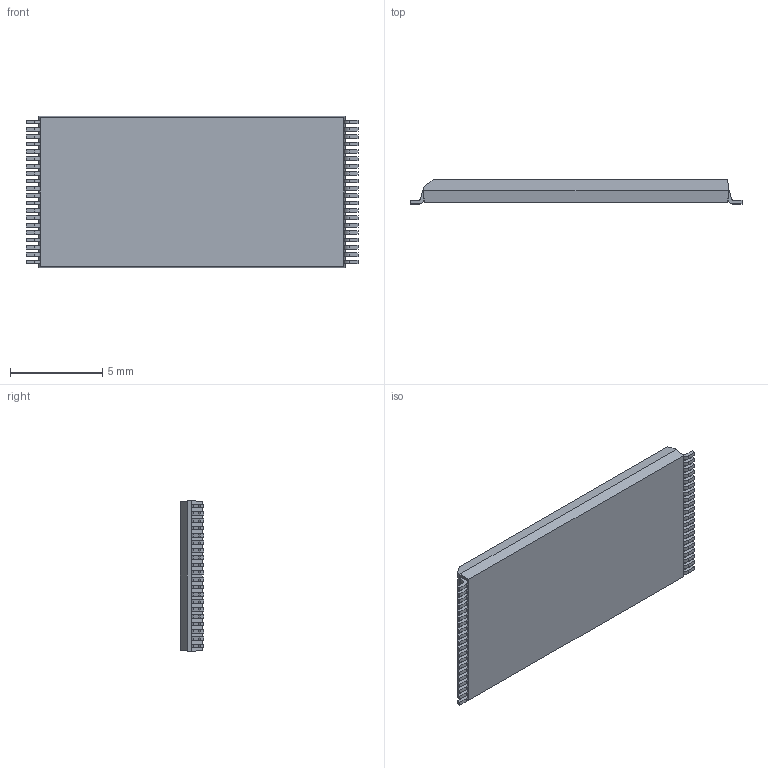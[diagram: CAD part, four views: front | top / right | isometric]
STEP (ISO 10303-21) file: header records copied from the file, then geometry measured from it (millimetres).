
FILE_DESCRIPTION (( 'STEP AP214' ), '1' );
FILE_NAME ('TSSOP40P1800-40.STEP', '2011-01-31T08:30:27', ( 'vpeshkov' ), ( 'licard' ), 'SwSTEP 2.0', 'SolidWorks 2009', '' );
FILE_SCHEMA (( 'AUTOMOTIVE_DESIGN' ));
Length unit declared in the file: millimetre
Products named in the file (1): TSSOP40P1800-40
Bounding box: 18 x 1.3 x 8.2 mm (x, y, z)
Volume: 161.6 mm3; surface area: 351 mm2
Topology: 1 solids, 1 shells, 414 faces, 1109 edges, 738 vertices
Faces by surface type: plane 292, cylinder 122
Entity records: 17319 total; most frequent: CARTESIAN_POINT 2262, ORIENTED_EDGE 2218, DIRECTION 2183, EDGE_CURVE 1109, VECTOR 865, LINE 865, VERTEX_POINT 738, AXIS2_PLACEMENT_3D 659
